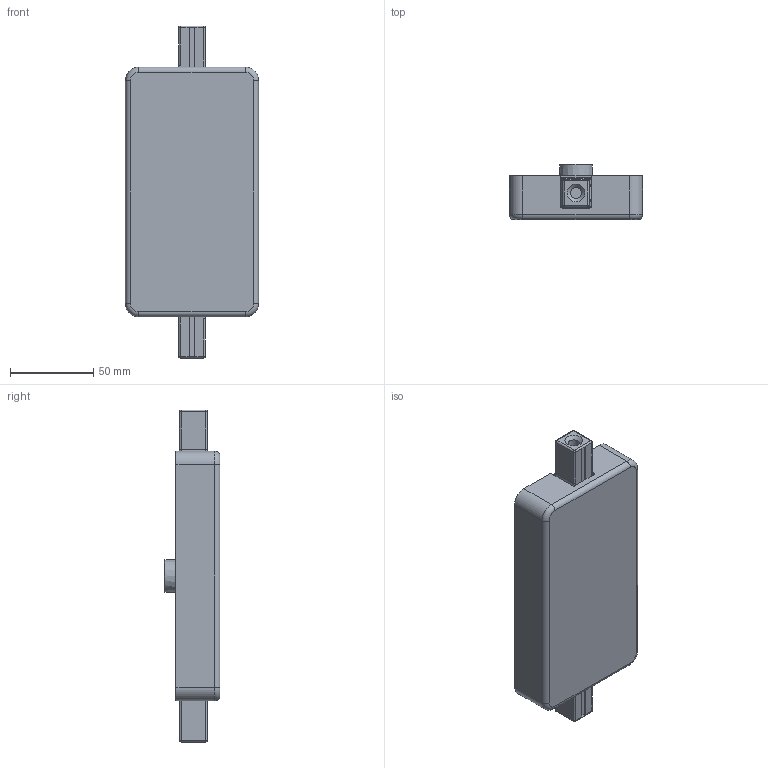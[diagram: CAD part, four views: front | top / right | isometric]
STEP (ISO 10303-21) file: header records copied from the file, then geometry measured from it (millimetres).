
FILE_DESCRIPTION((''),'2;1');
FILE_NAME('C:\Users\G1006U\Desktop\問い合わせ\HP用３Ｄデータ\EL-134 L.stp','2020-03-27T18:58:10',('G1006U'),(''),'Autodesk Inventor 2013','Autodesk Inventor 2013','');
FILE_SCHEMA(('AUTOMOTIVE_DESIGN { 1 0 10303 214 1 1 1 1 }'));
Length unit declared in the file: millimetre
Products named in the file (8): EL-133 L; Case; Lid; OuterBush; Hub; Clutch; Slidebolt; Cover 穴なし
Assembly tree (8 placements, depth 2):
  EL-133 L
    Case
    Lid
    OuterBush
    Hub
    Clutch
    Slidebolt  x2
    Cover 穴なし
Bounding box: 80 x 33.5 x 199.5 mm (x, y, z)
Volume: 153276.5 mm3; surface area: 136556.9 mm2
Topology: 8 solids, 8 shells, 1468 faces, 3648 edges, 2104 vertices
Faces by surface type: plane 612, cylinder 506, torus 154, sphere 104, bspline 68, cone 24
Full cylindrical faces by diameter (mm): 3 x2, 4.5 x4, 5.4 x2, 6.1 x4, 6.75 x2, 7.1 x6, 7.6 x2, 9.8 x4, 20.1 x1, 24 x1, 24.1 x1, 26 x1, 26.2 x1, 28.6 x1, 30 x2
Entity records: 34937 total; most frequent: CARTESIAN_POINT 7588, DIRECTION 5767, ORIENTED_EDGE 5520, EDGE_CURVE 2760, AXIS2_PLACEMENT_3D 2043, VERTEX_POINT 1719, VECTOR 1681, LINE 1681
